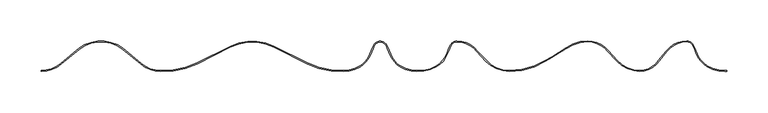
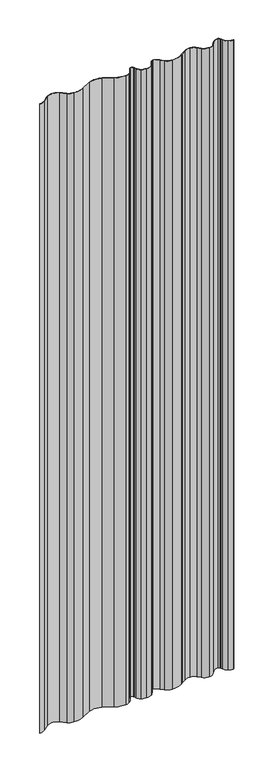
"""IFC4 building model written with IfcOpenShell, lengths in millimetres: plate geometry, Ritmica Vertical 834 : Ritmica Vertical 834."""

from ifc_helpers import new_model, si_unit, frame, origin, place, context, project, spatial, polyline, circle_curve, source, transform, mapped, element, save
from ifc_brep_helpers import plane_surface, cylinder_surface, revolved_surface, advanced_brep


def plate_c95ae0e2(model_context):
    return source(origin(), model_context, "Body", "AdvancedBrep", [
        advanced_brep(
        [(393.2391095, 6.8617877, 2859.2009216), (380.7879331, 21.6107843, 2859.2009216), (377.9067417, 28.8053371, 2859.2009216), (376.2463069, 32.2699104, 2859.2009216), (368.2557839, 37.3014761, 2859.2009216), (343.2838778, 25.2672166, 2859.2009216), (333.7374268, 13.2815417, 2859.2009216), (311.262648, 1.2965756, 2859.2009216), (283.7949346, 13.2922594, 2859.2009216), (272.6874551, 25.2790666, 2859.2009216), (247.7168686, 37.3160641, 2859.2009216), (220.9862336, 28.8937888, 2859.2009216), (203.6566719, 17.7575759, 2859.2009216), (196.2244931, 13.3604367, 2859.2009216), (152.05009, 1.1642518, 2859.2009216), (124.5823767, 13.1599356, 2859.2009216), (113.4748973, 25.1467426, 2859.2009216), (88.5011009, 37.1837396, 2859.2009216), (80.5132363, 32.1530508, 2859.2009216), (78.8524214, 28.6886595, 2859.2009216), (75.9704281, 21.4943903, 2859.2009216), (63.5176493, 6.7467924, 2859.2009216), (39.7563962, 1.0415158, 2859.2009216), (20.2159474, 6.5447366, 2859.2009216), (7.764771, 21.2937332, 2859.2009216), (4.8835795, 28.488286, 2859.2009216), (3.2231447, 31.9528592, 2859.2009216), (-12.7584529, 31.9537354, 2859.2009216), (-14.4192676, 28.4893443, 2859.2009216), (-17.3012479, 21.2951074, 2859.2009216), (-29.7540414, 6.5474761, 2859.2009216), (-49.2950931, 1.0463979, 2859.2009216), (-93.042882, 10.2143752, 2859.2009216), (-133.5802573, 30.5985105, 2859.2009216), (-187.4841307, 30.6014657, 2859.2009216), (-228.0237409, 10.2217753, 2859.2009216), (-271.7725347, 1.0585949, 2859.2009216), (-295.5393439, 9.6631088, 2859.2009216), (-317.9693483, 28.3519665, 2859.2009216), (-370.826806, 28.3548644, 2859.2009216), (-393.5611737, 9.6683726, 2859.2009216), (-417.3292902, 1.0664648, 2859.2009216), (-417.3289811, 0.0664648, 2859.2009216), (-392.9211304, 8.9000338, 2859.2009216), (-370.2071227, 27.5695651, 2859.2009216), (-318.5891177, 27.5667353, 2859.2009216), (-296.1794714, 8.8948401, 2859.2009216), (-271.7903563, 0.0586, 2859.2009216), (-227.5823609, 9.3244128, 2859.2009216), (-187.0349808, 29.7080093, 2859.2009216), (-134.0295052, 29.7051033, 2859.2009216), (-93.4843603, 9.3170611, 2859.2009216), (-49.2773822, 0.0464011, 2859.2009216), (-29.2323103, 5.6943661, 2859.2009216), (-16.3728739, 20.92346, 2859.2009216), (-13.5032594, 28.0868282, 2859.2009216), (-11.8567174, 31.5214472, 2859.2009216), (2.3213618, 31.5206699, 2859.2009216), (3.9675273, 28.0858704, 2859.2009216), (6.8363563, 20.9221876, 2859.2009216), (19.6941227, 5.6916838, 2859.2009216), (39.7239663, 0.0415312, 2859.2009216), (64.0338883, 5.8903245, 2859.2009216), (76.898788, 21.1227079, 2859.2009216), (79.7684295, 28.2861434, 2859.2009216), (81.4149718, 31.7207625, 2859.2009216), (88.5014083, 36.1837397, 2859.2009216), (112.7156551, 24.4948333, 2859.2009216), (123.8488779, 12.4802448, 2859.2009216), (152.0390386, 0.164254, 2859.2009216), (196.7450486, 12.5065068, 2859.2009216), (204.1817534, 16.9063237, 2859.2009216), (221.54196, 28.0622295, 2859.2009216), (247.7186194, 36.316064, 2859.2009216), (271.9283027, 24.6270604, 2859.2009216), (283.0614359, 12.6125686, 2859.2009216), (311.2625931, 0.2965756, 2859.2009216), (334.5448543, 12.6901877, 2859.2009216), (344.0660847, 24.6441979, 2859.2009216), (368.2557291, 36.3014761, 2859.2009216), (375.344524, 31.837721, 2859.2009216), (376.9906894, 28.4029215, 2859.2009216), (379.8601107, 21.2377596, 2859.2009216), (392.7213947, 6.0061978, 2859.2009216), (414.3303399, 0.0676844, 2859.2009216), (417.0000403, 0.0665665, 2859.2009216), (416.9997311, 1.0665665, 2859.2009216), (414.3303953, 1.0657412, 2859.2009216), (393.2391095, 6.8617877, 0.0), (414.3303947, 1.0676844, 0.0), (416.9997311, 1.0665665, 0.0), (417.0000403, 0.0665665, 0.0), (414.3307045, 0.0657413, 0.0), (392.7213947, 6.0061978, 0.0), (379.8601107, 21.2377596, 0.0), (376.9906894, 28.4029215, 0.0), (375.344524, 31.837721, 0.0), (368.2557291, 36.3014761, 0.0), (344.0660847, 24.6441979, 0.0), (334.5448543, 12.6901877, 0.0), (311.2625931, 0.2965756, 0.0), (283.0614359, 12.6125686, 0.0), (271.9283027, 24.6270604, 0.0), (247.7186194, 36.316064, 0.0), (221.54196, 28.0622295, 0.0), (204.1817534, 16.9063237, 0.0), (196.7450486, 12.5065068, 0.0), (152.0390386, 0.164254, 0.0), (123.8488779, 12.4802448, 0.0), (112.7156551, 24.4948333, 0.0), (88.5014083, 36.1837397, 0.0), (81.4149718, 31.7207625, 0.0), (79.7684295, 28.2861434, 0.0), (76.898788, 21.1227079, 0.0), (64.0338883, 5.8903245, 0.0), (39.7239663, 0.0415312, 0.0), (19.6941227, 5.6916838, 0.0), (6.8363563, 20.9221876, 0.0), (3.9675273, 28.0858704, 0.0), (2.3213618, 31.5206699, 0.0), (-11.8567174, 31.5214472, 0.0), (-13.5032594, 28.0868282, 0.0), (-16.3728739, 20.92346, 0.0), (-29.2323103, 5.6943661, 0.0), (-49.2773822, 0.0464011, 0.0), (-93.4843603, 9.3170611, 0.0), (-134.0295052, 29.7051033, 0.0), (-187.0349808, 29.7080093, 0.0), (-227.5823609, 9.3244128, 0.0), (-271.7903563, 0.0586, 0.0), (-296.1794714, 8.8948401, 0.0), (-318.5891177, 27.5667353, 0.0), (-370.2071227, 27.5695651, 0.0), (-392.9211304, 8.9000338, 0.0), (-417.3289811, 0.0664648, 0.0), (-417.3292902, 1.0664648, 0.0), (-393.5611737, 9.6683726, 0.0), (-370.826806, 28.3548644, 0.0), (-317.9693483, 28.3519665, 0.0), (-295.5393439, 9.6631088, 0.0), (-271.7725347, 1.0585949, 0.0), (-228.0237409, 10.2217753, 0.0), (-187.4841307, 30.6014657, 0.0), (-133.5802573, 30.5985105, 0.0), (-93.042882, 10.2143752, 0.0), (-49.2950931, 1.0463979, 0.0), (-29.7540414, 6.5474761, 0.0), (-17.3012479, 21.2951074, 0.0), (-14.4192676, 28.4893443, 0.0), (-12.7584529, 31.9537354, 0.0), (3.2231447, 31.9528592, 0.0), (4.8835795, 28.488286, 0.0), (7.764771, 21.2937332, 0.0), (20.2159474, 6.5447366, 0.0), (39.7563962, 1.0415158, 0.0), (63.5176493, 6.7467924, 0.0), (75.9704281, 21.4943903, 0.0), (78.8524214, 28.6886595, 0.0), (80.5132363, 32.1530508, 0.0), (88.5011009, 37.1837396, 0.0), (113.4748973, 25.1467426, 0.0), (124.5823767, 13.1599356, 0.0), (152.05009, 1.1642518, 0.0), (196.2244931, 13.3604367, 0.0), (203.6566719, 17.7575759, 0.0), (220.9862336, 28.8937888, 0.0), (247.7168686, 37.3160641, 0.0), (272.6874551, 25.2790666, 0.0), (283.7949346, 13.2922594, 0.0), (311.262648, 1.2965756, 0.0), (333.7374268, 13.2815417, 0.0), (343.2838778, 25.2672166, 0.0), (368.2557839, 37.3014761, 0.0), (376.2463069, 32.2699104, 0.0), (377.9067417, 28.8053371, 0.0), (380.7879331, 21.6107843, 0.0)],
        [
            (0, 1, circle_curve(frame((409.4563835, 33.182662, 2859.2009216), z_axis=(0.0, 0.0, -1.0), x_axis=(0.9999999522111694, 0.0003091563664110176, 0.0)), 30.9158276)),
            (1, 2),
            (2, 3),
            (3, 4, circle_curve(frame((368.2552981, 28.4401316, 2859.2009216), z_axis=(0.0, 0.0, 1.0), x_axis=(0.9999999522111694, 0.0003091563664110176, 0.0)), 8.8613445)),
            (4, 5, circle_curve(frame((368.2540338, 5.378777, 2859.2009216), z_axis=(0.0, 0.0, 1.0), x_axis=(0.9999999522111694, 0.0003091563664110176, 0.0)), 31.9226992)),
            (5, 6),
            (6, 7, circle_curve(frame((311.2641316, 28.3591638, 2859.2009216), z_axis=(0.0, 0.0, -1.0), x_axis=(0.9999999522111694, 0.0003091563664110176, 0.0)), 27.0625882)),
            (7, 8, circle_curve(frame((311.2647011, 38.7469, 2859.2009216), z_axis=(0.0, 0.0, -1.0), x_axis=(0.9999999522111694, 0.0003091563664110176, 0.0)), 37.4503244)),
            (8, 9),
            (9, 10, circle_curve(frame((247.7151185, 5.393365, 2859.2009216), z_axis=(0.0, 0.0, 1.0), x_axis=(0.9999999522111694, 0.0003091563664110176, 0.0)), 31.9226992)),
            (10, 11, circle_curve(frame((247.8850462, -9.8477086, 2859.2009216), z_axis=(0.0, 0.0, 1.0), x_axis=(0.9999999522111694, 0.0003091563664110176, 0.0)), 47.1640725)),
            (11, 12),
            (12, 13),
            (13, 14, circle_curve(frame((153.802572, 80.914401, 2859.2009216), z_axis=(0.0, 0.0, -1.0), x_axis=(0.9999999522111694, 0.0003091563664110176, 0.0)), 79.769402)),
            (14, 15, circle_curve(frame((152.0521432, 38.6145762, 2859.2009216), z_axis=(0.0, 0.0, -1.0), x_axis=(0.9999999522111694, 0.0003091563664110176, 0.0)), 37.4503244)),
            (15, 16),
            (16, 17, circle_curve(frame((88.5109087, 5.2783595, 2859.2009216), z_axis=(0.0, 0.0, 1.0), x_axis=(0.9999999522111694, 0.0003091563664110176, 0.0)), 31.9053816)),
            (17, 18, circle_curve(frame((88.5038249, 28.3223956, 2859.2009216), z_axis=(0.0, 0.0, 1.0), x_axis=(0.9999999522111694, 0.0003091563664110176, 0.0)), 8.8613444)),
            (18, 19),
            (19, 20),
            (20, 21, circle_curve(frame((47.5439746, 32.8661858, 2859.2009216), z_axis=(0.0, 0.0, -1.0), x_axis=(0.9999999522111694, 0.0003091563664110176, 0.0)), 30.6166783)),
            (21, 22, circle_curve(frame((42.427991, 42.2477955, 2859.2009216), z_axis=(0.0, 0.0, -1.0), x_axis=(0.9999999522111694, 0.0003091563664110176, 0.0)), 41.2927948)),
            (22, 23, circle_curve(frame((39.758449, 38.4918402, 2859.2009216), z_axis=(0.0, 0.0, -1.0), x_axis=(0.9999999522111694, 0.0003091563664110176, 0.0)), 37.4503244)),
            (23, 24, circle_curve(frame((36.1924841, 32.6623793, 2859.2009216), z_axis=(0.0, 0.0, -1.0), x_axis=(0.9999999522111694, 0.0003091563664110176, 0.0)), 30.6166783)),
            (24, 25),
            (25, 26),
            (26, 27, circle_curve(frame((-4.7678641, 28.1230805, 2859.2009216), z_axis=(0.0, 0.0, 1.0), x_axis=(0.9999999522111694, 0.0003091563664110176, 0.0)), 8.8613445)),
            (27, 28),
            (28, 29),
            (29, 30, circle_curve(frame((-45.7277143, 32.6668705, 2859.2009216), z_axis=(0.0, 0.0, -1.0), x_axis=(0.9999999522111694, 0.0003091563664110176, 0.0)), 30.6166783)),
            (30, 31, circle_curve(frame((-49.29304, 38.4967223, 2859.2009216), z_axis=(0.0, 0.0, -1.0), x_axis=(0.9999999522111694, 0.0003091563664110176, 0.0)), 37.4503244)),
            (31, 32, circle_curve(frame((-52.5908654, 94.281541, 2859.2009216), z_axis=(0.0, 0.0, -1.0), x_axis=(0.9999999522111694, 0.0003091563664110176, 0.0)), 93.293376)),
            (32, 33),
            (33, 34, circle_curve(frame((-160.5351329, -23.0059173, 2859.2009216), z_axis=(0.0, 0.0, 1.0), x_axis=(0.9999999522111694, 0.0003091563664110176, 0.0)), 60.0)),
            (34, 35),
            (35, 36, circle_curve(frame((-268.4665395, 94.293376, 2859.2009216), z_axis=(0.0, 0.0, -1.0), x_axis=(0.9999999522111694, 0.0003091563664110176, 0.0)), 93.293376)),
            (36, 37, circle_curve(frame((-271.770499, 38.1900152, 2859.2009216), z_axis=(0.0, 0.0, -1.0), x_axis=(0.9999999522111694, 0.0003091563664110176, 0.0)), 37.1314203)),
            (37, 38),
            (38, 39, circle_curve(frame((-344.4000154, -7.0007595, 2859.2009216), z_axis=(0.0, 0.0, 1.0), x_axis=(0.9999999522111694, 0.0003091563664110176, 0.0)), 44.1406321)),
            (39, 40),
            (40, 41, circle_curve(frame((-417.3268906, 38.1978851, 2859.2009216), z_axis=(0.0, 0.0, -1.0), x_axis=(0.9999999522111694, 0.0003091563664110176, 0.0)), 37.1314203)),
            (41, 42),
            (42, 43, circle_curve(frame((-417.3268906, 38.1978851, 2859.2009216), z_axis=(0.0, 0.0, 1.0), x_axis=(0.9999999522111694, 0.0003091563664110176, 0.0)), 38.1314203)),
            (43, 44),
            (44, 45, circle_curve(frame((-344.4000154, -7.0007595, 2859.2009216), z_axis=(0.0, 0.0, -1.0), x_axis=(0.9999999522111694, 0.0003091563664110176, 0.0)), 43.1406321)),
            (45, 46),
            (46, 47, circle_curve(frame((-271.770499, 38.1900152, 2859.2009216), z_axis=(0.0, 0.0, 1.0), x_axis=(0.9999999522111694, 0.0003091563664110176, 0.0)), 38.1314203)),
            (47, 48, circle_curve(frame((-268.4665395, 94.293376, 2859.2009216), z_axis=(0.0, 0.0, 1.0), x_axis=(0.9999999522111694, 0.0003091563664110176, 0.0)), 94.293376)),
            (48, 49),
            (49, 50, circle_curve(frame((-160.5351329, -23.0059173, 2859.2009216), z_axis=(0.0, 0.0, -1.0), x_axis=(0.9999999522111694, 0.0003091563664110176, 0.0)), 59.0)),
            (50, 51),
            (51, 52, circle_curve(frame((-52.5908654, 94.281541, 2859.2009216), z_axis=(0.0, 0.0, 1.0), x_axis=(0.9999999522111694, 0.0003091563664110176, 0.0)), 94.293376)),
            (52, 53, circle_curve(frame((-49.29304, 38.4967223, 2859.2009216), z_axis=(0.0, 0.0, 1.0), x_axis=(0.9999999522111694, 0.0003091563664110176, 0.0)), 38.4503244)),
            (53, 54, circle_curve(frame((-45.7277143, 32.6668705, 2859.2009216), z_axis=(0.0, 0.0, 1.0), x_axis=(0.9999999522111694, 0.0003091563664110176, 0.0)), 31.6166783)),
            (54, 55),
            (55, 56),
            (56, 57, circle_curve(frame((-4.7678641, 28.1230805, 2859.2009216), z_axis=(0.0, 0.0, -1.0), x_axis=(0.9999999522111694, 0.0003091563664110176, 0.0)), 7.8613445)),
            (57, 58),
            (58, 59),
            (59, 60, circle_curve(frame((36.1924841, 32.6623793, 2859.2009216), z_axis=(0.0, 0.0, 1.0), x_axis=(0.9999999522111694, 0.0003091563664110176, 0.0)), 31.6166783)),
            (60, 61, circle_curve(frame((39.758449, 38.4918402, 2859.2009216), z_axis=(0.0, 0.0, 1.0), x_axis=(0.9999999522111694, 0.0003091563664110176, 0.0)), 38.4503244)),
            (61, 62, circle_curve(frame((42.427991, 42.2477955, 2859.2009216), z_axis=(0.0, 0.0, 1.0), x_axis=(0.9999999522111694, 0.0003091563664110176, 0.0)), 42.2927948)),
            (62, 63, circle_curve(frame((47.5439746, 32.8661858, 2859.2009216), z_axis=(0.0, 0.0, 1.0), x_axis=(0.9999999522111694, 0.0003091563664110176, 0.0)), 31.6166782)),
            (63, 64),
            (64, 65),
            (65, 66, circle_curve(frame((88.5038249, 28.3223956, 2859.2009216), z_axis=(0.0, 0.0, -1.0), x_axis=(0.9999999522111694, 0.0003091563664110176, 0.0)), 7.8613444)),
            (66, 67, circle_curve(frame((88.5109087, 5.2783595, 2859.2009216), z_axis=(0.0, 0.0, -1.0), x_axis=(0.9999999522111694, 0.0003091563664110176, 0.0)), 30.9053816)),
            (67, 68),
            (68, 69, circle_curve(frame((152.0521432, 38.6145762, 2859.2009216), z_axis=(0.0, 0.0, 1.0), x_axis=(0.9999999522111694, 0.0003091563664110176, 0.0)), 38.4503244)),
            (69, 70, circle_curve(frame((153.802572, 80.914401, 2859.2009216), z_axis=(0.0, 0.0, 1.0), x_axis=(0.9999999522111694, 0.0003091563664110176, 0.0)), 80.769402)),
            (70, 71),
            (71, 72),
            (72, 73, circle_curve(frame((247.8850462, -9.8477086, 2859.2009216), z_axis=(0.0, 0.0, -1.0), x_axis=(0.9999999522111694, 0.0003091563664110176, 0.0)), 46.1640725)),
            (73, 74, circle_curve(frame((247.7151185, 5.393365, 2859.2009216), z_axis=(0.0, 0.0, -1.0), x_axis=(0.9999999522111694, 0.0003091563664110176, 0.0)), 30.9226992)),
            (74, 75),
            (75, 76, circle_curve(frame((311.2647011, 38.7469, 2859.2009216), z_axis=(0.0, 0.0, 1.0), x_axis=(0.9999999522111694, 0.0003091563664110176, 0.0)), 38.4503244)),
            (76, 77, circle_curve(frame((311.2641316, 28.3591638, 2859.2009216), z_axis=(0.0, 0.0, 1.0), x_axis=(0.9999999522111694, 0.0003091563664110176, 0.0)), 28.0625882)),
            (77, 78),
            (78, 79, circle_curve(frame((368.2540338, 5.378777, 2859.2009216), z_axis=(0.0, 0.0, -1.0), x_axis=(0.9999999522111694, 0.0003091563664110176, 0.0)), 30.9226992)),
            (79, 80, circle_curve(frame((368.2552981, 28.4401316, 2859.2009216), z_axis=(0.0, 0.0, -1.0), x_axis=(0.9999999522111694, 0.0003091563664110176, 0.0)), 7.8613445)),
            (80, 81),
            (81, 82),
            (82, 83, circle_curve(frame((409.4563835, 33.182662, 2859.2009216), z_axis=(0.0, 0.0, 1.0), x_axis=(0.9999999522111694, 0.0003091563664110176, 0.0)), 31.9158276)),
            (83, 84, circle_curve(frame((414.3326585, 42.3604792, 2859.2009216), z_axis=(0.0, 0.0, 1.0), x_axis=(0.9999999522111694, 0.0003091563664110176, 0.0)), 42.2927949)),
            (84, 85),
            (85, 86),
            (86, 87),
            (87, 0, circle_curve(frame((414.3326585, 42.3604792, 2859.2009216), z_axis=(0.0, 0.0, -1.0), x_axis=(0.9999999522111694, 0.0003091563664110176, 0.0)), 41.2927949)),
            (88, 89, circle_curve(frame((414.3326585, 42.3604792, 0.0), z_axis=(0.0, 0.0, 1.0), x_axis=(0.9999999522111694, 0.0003091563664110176, 0.0)), 41.2927949)),
            (89, 90),
            (90, 91),
            (91, 92),
            (92, 93, circle_curve(frame((414.3326585, 42.3604792, 0.0), z_axis=(0.0, 0.0, -1.0), x_axis=(0.9999999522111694, 0.0003091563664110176, 0.0)), 42.2927949)),
            (93, 94, circle_curve(frame((409.4563835, 33.182662, 0.0), z_axis=(0.0, 0.0, -1.0), x_axis=(0.9999999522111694, 0.0003091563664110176, 0.0)), 31.9158276)),
            (94, 95),
            (95, 96),
            (96, 97, circle_curve(frame((368.2552981, 28.4401316, 0.0), z_axis=(0.0, 0.0, 1.0), x_axis=(0.9999999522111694, 0.0003091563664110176, 0.0)), 7.8613445)),
            (97, 98, circle_curve(frame((368.2540338, 5.378777, 0.0), z_axis=(0.0, 0.0, 1.0), x_axis=(0.9999999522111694, 0.0003091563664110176, 0.0)), 30.9226992)),
            (98, 99),
            (99, 100, circle_curve(frame((311.2641316, 28.3591638, 0.0), z_axis=(0.0, 0.0, -1.0), x_axis=(0.9999999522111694, 0.0003091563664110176, 0.0)), 28.0625882)),
            (100, 101, circle_curve(frame((311.2647011, 38.7469, 0.0), z_axis=(0.0, 0.0, -1.0), x_axis=(0.9999999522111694, 0.0003091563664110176, 0.0)), 38.4503244)),
            (101, 102),
            (102, 103, circle_curve(frame((247.7151185, 5.393365, 0.0), z_axis=(0.0, 0.0, 1.0), x_axis=(0.9999999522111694, 0.0003091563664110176, 0.0)), 30.9226992)),
            (103, 104, circle_curve(frame((247.8850462, -9.8477086, 0.0), z_axis=(0.0, 0.0, 1.0), x_axis=(0.9999999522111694, 0.0003091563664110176, 0.0)), 46.1640725)),
            (104, 105),
            (105, 106),
            (106, 107, circle_curve(frame((153.802572, 80.914401, 0.0), z_axis=(0.0, 0.0, -1.0), x_axis=(0.9999999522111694, 0.0003091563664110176, 0.0)), 80.769402)),
            (107, 108, circle_curve(frame((152.0521432, 38.6145762, 0.0), z_axis=(0.0, 0.0, -1.0), x_axis=(0.9999999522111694, 0.0003091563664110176, 0.0)), 38.4503244)),
            (108, 109),
            (109, 110, circle_curve(frame((88.5109087, 5.2783595, 0.0), z_axis=(0.0, 0.0, 1.0), x_axis=(0.9999999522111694, 0.0003091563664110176, 0.0)), 30.9053816)),
            (110, 111, circle_curve(frame((88.5038249, 28.3223956, 0.0), z_axis=(0.0, 0.0, 1.0), x_axis=(0.9999999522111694, 0.0003091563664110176, 0.0)), 7.8613444)),
            (111, 112),
            (112, 113),
            (113, 114, circle_curve(frame((47.5439746, 32.8661858, 0.0), z_axis=(0.0, 0.0, -1.0), x_axis=(0.9999999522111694, 0.0003091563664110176, 0.0)), 31.6166782)),
            (114, 115, circle_curve(frame((42.427991, 42.2477955, 0.0), z_axis=(0.0, 0.0, -1.0), x_axis=(0.9999999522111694, 0.0003091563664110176, 0.0)), 42.2927948)),
            (115, 116, circle_curve(frame((39.758449, 38.4918402, 0.0), z_axis=(0.0, 0.0, -1.0), x_axis=(0.9999999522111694, 0.0003091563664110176, 0.0)), 38.4503244)),
            (116, 117, circle_curve(frame((36.1924841, 32.6623793, 0.0), z_axis=(0.0, 0.0, -1.0), x_axis=(0.9999999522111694, 0.0003091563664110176, 0.0)), 31.6166783)),
            (117, 118),
            (118, 119),
            (119, 120, circle_curve(frame((-4.7678641, 28.1230805, 0.0), z_axis=(0.0, 0.0, 1.0), x_axis=(0.9999999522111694, 0.0003091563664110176, 0.0)), 7.8613445)),
            (120, 121),
            (121, 122),
            (122, 123, circle_curve(frame((-45.7277143, 32.6668705, 0.0), z_axis=(0.0, 0.0, -1.0), x_axis=(0.9999999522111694, 0.0003091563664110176, 0.0)), 31.6166783)),
            (123, 124, circle_curve(frame((-49.29304, 38.4967223, 0.0), z_axis=(0.0, 0.0, -1.0), x_axis=(0.9999999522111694, 0.0003091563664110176, 0.0)), 38.4503244)),
            (124, 125, circle_curve(frame((-52.5908654, 94.281541, 0.0), z_axis=(0.0, 0.0, -1.0), x_axis=(0.9999999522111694, 0.0003091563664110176, 0.0)), 94.293376)),
            (125, 126),
            (126, 127, circle_curve(frame((-160.5351329, -23.0059173, 0.0), z_axis=(0.0, 0.0, 1.0), x_axis=(0.9999999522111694, 0.0003091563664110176, 0.0)), 59.0)),
            (127, 128),
            (128, 129, circle_curve(frame((-268.4665395, 94.293376, 0.0), z_axis=(0.0, 0.0, -1.0), x_axis=(0.9999999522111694, 0.0003091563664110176, 0.0)), 94.293376)),
            (129, 130, circle_curve(frame((-271.770499, 38.1900152, 0.0), z_axis=(0.0, 0.0, -1.0), x_axis=(0.9999999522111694, 0.0003091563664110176, 0.0)), 38.1314203)),
            (130, 131),
            (131, 132, circle_curve(frame((-344.4000154, -7.0007595, 0.0), z_axis=(0.0, 0.0, 1.0), x_axis=(0.9999999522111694, 0.0003091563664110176, 0.0)), 43.1406321)),
            (132, 133),
            (133, 134, circle_curve(frame((-417.3268906, 38.1978851, 0.0), z_axis=(0.0, 0.0, -1.0), x_axis=(0.9999999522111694, 0.0003091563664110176, 0.0)), 38.1314203)),
            (134, 135),
            (135, 136, circle_curve(frame((-417.3268906, 38.1978851, 0.0), z_axis=(0.0, 0.0, 1.0), x_axis=(0.9999999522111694, 0.0003091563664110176, 0.0)), 37.1314203)),
            (136, 137),
            (137, 138, circle_curve(frame((-344.4000154, -7.0007595, 0.0), z_axis=(0.0, 0.0, -1.0), x_axis=(0.9999999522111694, 0.0003091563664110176, 0.0)), 44.1406321)),
            (138, 139),
            (139, 140, circle_curve(frame((-271.770499, 38.1900152, 0.0), z_axis=(0.0, 0.0, 1.0), x_axis=(0.9999999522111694, 0.0003091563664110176, 0.0)), 37.1314203)),
            (140, 141, circle_curve(frame((-268.4665395, 94.293376, 0.0), z_axis=(0.0, 0.0, 1.0), x_axis=(0.9999999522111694, 0.0003091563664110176, 0.0)), 93.293376)),
            (141, 142),
            (142, 143, circle_curve(frame((-160.5351329, -23.0059173, 0.0), z_axis=(0.0, 0.0, -1.0), x_axis=(0.9999999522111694, 0.0003091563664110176, 0.0)), 60.0)),
            (143, 144),
            (144, 145, circle_curve(frame((-52.5908654, 94.281541, 0.0), z_axis=(0.0, 0.0, 1.0), x_axis=(0.9999999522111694, 0.0003091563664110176, 0.0)), 93.293376)),
            (145, 146, circle_curve(frame((-49.29304, 38.4967223, 0.0), z_axis=(0.0, 0.0, 1.0), x_axis=(0.9999999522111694, 0.0003091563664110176, 0.0)), 37.4503244)),
            (146, 147, circle_curve(frame((-45.7277143, 32.6668705, 0.0), z_axis=(0.0, 0.0, 1.0), x_axis=(0.9999999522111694, 0.0003091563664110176, 0.0)), 30.6166783)),
            (147, 148),
            (148, 149),
            (149, 150, circle_curve(frame((-4.7678641, 28.1230805, 0.0), z_axis=(0.0, 0.0, -1.0), x_axis=(0.9999999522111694, 0.0003091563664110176, 0.0)), 8.8613445)),
            (150, 151),
            (151, 152),
            (152, 153, circle_curve(frame((36.1924841, 32.6623793, 0.0), z_axis=(0.0, 0.0, 1.0), x_axis=(0.9999999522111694, 0.0003091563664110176, 0.0)), 30.6166783)),
            (153, 154, circle_curve(frame((39.758449, 38.4918402, 0.0), z_axis=(0.0, 0.0, 1.0), x_axis=(0.9999999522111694, 0.0003091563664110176, 0.0)), 37.4503244)),
            (154, 155, circle_curve(frame((42.427991, 42.2477955, 0.0), z_axis=(0.0, 0.0, 1.0), x_axis=(0.9999999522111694, 0.0003091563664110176, 0.0)), 41.2927948)),
            (155, 156, circle_curve(frame((47.5439746, 32.8661858, 0.0), z_axis=(0.0, 0.0, 1.0), x_axis=(0.9999999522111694, 0.0003091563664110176, 0.0)), 30.6166783)),
            (156, 157),
            (157, 158),
            (158, 159, circle_curve(frame((88.5038249, 28.3223956, 0.0), z_axis=(0.0, 0.0, -1.0), x_axis=(0.9999999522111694, 0.0003091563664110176, 0.0)), 8.8613444)),
            (159, 160, circle_curve(frame((88.5109087, 5.2783595, 0.0), z_axis=(0.0, 0.0, -1.0), x_axis=(0.9999999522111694, 0.0003091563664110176, 0.0)), 31.9053816)),
            (160, 161),
            (161, 162, circle_curve(frame((152.0521432, 38.6145762, 0.0), z_axis=(0.0, 0.0, 1.0), x_axis=(0.9999999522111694, 0.0003091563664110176, 0.0)), 37.4503244)),
            (162, 163, circle_curve(frame((153.802572, 80.914401, 0.0), z_axis=(0.0, 0.0, 1.0), x_axis=(0.9999999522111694, 0.0003091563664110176, 0.0)), 79.769402)),
            (163, 164),
            (164, 165),
            (165, 166, circle_curve(frame((247.8850462, -9.8477086, 0.0), z_axis=(0.0, 0.0, -1.0), x_axis=(0.9999999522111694, 0.0003091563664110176, 0.0)), 47.1640725)),
            (166, 167, circle_curve(frame((247.7151185, 5.393365, 0.0), z_axis=(0.0, 0.0, -1.0), x_axis=(0.9999999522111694, 0.0003091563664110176, 0.0)), 31.9226992)),
            (167, 168),
            (168, 169, circle_curve(frame((311.2647011, 38.7469, 0.0), z_axis=(0.0, 0.0, 1.0), x_axis=(0.9999999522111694, 0.0003091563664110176, 0.0)), 37.4503244)),
            (169, 170, circle_curve(frame((311.2641316, 28.3591638, 0.0), z_axis=(0.0, 0.0, 1.0), x_axis=(0.9999999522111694, 0.0003091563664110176, 0.0)), 27.0625882)),
            (170, 171),
            (171, 172, circle_curve(frame((368.2540338, 5.378777, 0.0), z_axis=(0.0, 0.0, -1.0), x_axis=(0.9999999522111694, 0.0003091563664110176, 0.0)), 31.9226992)),
            (172, 173, circle_curve(frame((368.2552981, 28.4401316, 0.0), z_axis=(0.0, 0.0, -1.0), x_axis=(0.9999999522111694, 0.0003091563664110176, 0.0)), 8.8613445)),
            (173, 174),
            (174, 175),
            (175, 88, circle_curve(frame((409.4563835, 33.182662, 0.0), z_axis=(0.0, 0.0, 1.0), x_axis=(0.9999999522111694, 0.0003091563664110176, 0.0)), 30.9158276)),
            (87, 89),
            (88, 0),
            (175, 1),
            (174, 2),
            (173, 3),
            (172, 4),
            (171, 5),
            (170, 6),
            (169, 7),
            (168, 8),
            (167, 9),
            (166, 10),
            (165, 11),
            (164, 12),
            (163, 13),
            (162, 14),
            (161, 15),
            (160, 16),
            (159, 17),
            (158, 18),
            (157, 19),
            (156, 20),
            (155, 21),
            (154, 22),
            (153, 23),
            (152, 24),
            (151, 25),
            (150, 26),
            (149, 27),
            (148, 28),
            (147, 29),
            (146, 30),
            (145, 31),
            (144, 32),
            (143, 33),
            (142, 34),
            (141, 35),
            (140, 36),
            (139, 37),
            (138, 38),
            (137, 39),
            (136, 40),
            (135, 41),
            (134, 42),
            (133, 43),
            (132, 44),
            (131, 45),
            (130, 46),
            (129, 47),
            (128, 48),
            (127, 49),
            (126, 50),
            (125, 51),
            (124, 52),
            (123, 53),
            (122, 54),
            (121, 55),
            (120, 56),
            (119, 57),
            (118, 58),
            (117, 59),
            (116, 60),
            (115, 61),
            (114, 62),
            (113, 63),
            (112, 64),
            (111, 65),
            (110, 66),
            (109, 67),
            (108, 68),
            (107, 69),
            (106, 70),
            (105, 71),
            (104, 72),
            (103, 73),
            (102, 74),
            (101, 75),
            (100, 76),
            (99, 77),
            (98, 78),
            (97, 79),
            (96, 80),
            (95, 81),
            (94, 82),
            (93, 83),
            (92, 84),
            (91, 85),
            (90, 86),
        ],
        [
            plane_surface(frame((440.3722096, 33.1922198, 2859.2009216), z_axis=(0.0, 0.0, 1.0), x_axis=(0.00030915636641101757, -0.9999999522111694, 0.0))),
            plane_surface(frame((440.3722096, 33.1922198, 0.0), z_axis=(0.0, 0.0, -1.0), x_axis=(-0.00030915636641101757, 0.9999999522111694, 0.0))),
            revolved_surface(polyline([(455.6254514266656, 42.37324513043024, 0.0), (455.6254514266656, 42.37324513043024, 2859.2009216)]), (414.3326585, 42.3604792, 0.0), (0.0, 0.0, -1.0)),
            revolved_surface(polyline([(440.3722096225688, 33.19221982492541, 0.0), (440.3722096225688, 33.19221982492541, 2859.2009216)]), (409.4563835, 33.182662, 0.0), (0.0, 0.0, -1.0)),
            plane_surface(frame((380.7879331, 21.6107843, 2859.2009216), z_axis=(0.9283266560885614, 0.3717655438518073, 0.0), x_axis=(0.0, 0.0, -1.0))),
            plane_surface(frame((377.9067417, 28.8053371, 2859.2009216), z_axis=(0.9017828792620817, 0.432189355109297, 0.0), x_axis=(0.0, 0.0, -1.0))),
            cylinder_surface(frame((368.2552981, 28.4401316, 0.0), z_axis=(0.0, 0.0, 1.0), x_axis=(0.9999999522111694, 0.0003091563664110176, 0.0)), 8.8613445),
            cylinder_surface(frame((368.2540338, 5.378777, 0.0), z_axis=(0.0, 0.0, 1.0), x_axis=(0.9999999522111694, 0.0003091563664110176, 0.0)), 31.9226992),
            plane_surface(frame((343.2838778, 25.2672166, 2859.2009216), z_axis=(-0.7822069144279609, 0.6230187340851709, 0.0), x_axis=(0.0, 0.0, -1.0))),
            revolved_surface(polyline([(338.32671850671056, 28.367530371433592, 0.0), (338.32671850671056, 28.367530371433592, 2859.2009216)]), (311.2641316, 28.3591638, 0.0), (0.0, 0.0, -1.0)),
            revolved_surface(polyline([(348.7150237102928, 38.758478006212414, 0.0), (348.7150237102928, 38.758478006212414, 2859.2009216)]), (311.2647011, 38.7469, 0.0), (0.0, 0.0, -1.0)),
            plane_surface(frame((283.7949346, 13.2922594, 2859.2009216), z_axis=(0.7334987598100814, 0.6796907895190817, 0.0), x_axis=(0.0, 0.0, -1.0))),
            cylinder_surface(frame((247.7151185, 5.393365, 0.0), z_axis=(0.0, 0.0, 1.0), x_axis=(0.9999999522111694, 0.0003091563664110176, 0.0)), 31.9226992),
            cylinder_surface(frame((247.8850462, -9.8477086, 0.0), z_axis=(0.0, 0.0, 1.0), x_axis=(0.9999999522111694, 0.0003091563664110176, 0.0)), 47.1640725),
            plane_surface(frame((220.9862336, 28.8937888, 2859.2009216), z_axis=(-0.5406126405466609, 0.8412716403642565, 0.0), x_axis=(0.0, 0.0, -1.0))),
            plane_surface(frame((203.6566719, 17.7575759, 2859.2009216), z_axis=(-0.5091924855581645, 0.8606526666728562, 0.0), x_axis=(0.0, 0.0, -1.0))),
            revolved_surface(polyline([(233.57197018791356, 80.9390622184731, 0.0), (233.57197018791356, 80.9390622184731, 2859.2009216)]), (153.802572, 80.914401, 0.0), (0.0, 0.0, -1.0)),
            revolved_surface(polyline([(189.5024658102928, 38.62615420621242, 0.0), (189.5024658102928, 38.62615420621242, 2859.2009216)]), (152.0521432, 38.6145762, 0.0), (0.0, 0.0, -1.0)),
            plane_surface(frame((124.5823767, 13.1599356, 2859.2009216), z_axis=(0.73349875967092, 0.6796907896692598, 0.0), x_axis=(0.0, 0.0, -1.0))),
            cylinder_surface(frame((88.5109087, 5.2783595, 0.0), z_axis=(0.0, 0.0, 1.0), x_axis=(0.9999999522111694, 0.0003091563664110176, 0.0)), 31.9053816),
            cylinder_surface(frame((88.5038249, 28.3223956, 0.0), z_axis=(0.0, 0.0, 1.0), x_axis=(0.9999999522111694, 0.0003091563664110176, 0.0)), 8.8613444),
            plane_surface(frame((80.5132363, 32.1530508, 2859.2009216), z_axis=(-0.9017354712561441, 0.43228826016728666, 0.0), x_axis=(0.0, 0.0, -1.0))),
            plane_surface(frame((78.8524214, 28.6886595, 2859.2009216), z_axis=(-0.928285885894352, 0.37186733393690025, 0.0), x_axis=(0.0, 0.0, -1.0))),
            revolved_surface(polyline([(78.16065143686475, 32.8756511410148, 0.0), (78.16065143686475, 32.8756511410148, 2859.2009216)]), (47.5439746, 32.8661858, 0.0), (0.0, 0.0, -1.0)),
            revolved_surface(polyline([(83.72078382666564, 42.26056143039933, 0.0), (83.72078382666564, 42.26056143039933, 2859.2009216)]), (42.427991, 42.2477955, 0.0), (0.0, 0.0, -1.0)),
            revolved_surface(polyline([(77.20877161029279, 38.503418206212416, 0.0), (77.20877161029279, 38.503418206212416, 2859.2009216)]), (39.758449, 38.4918402, 0.0), (0.0, 0.0, -1.0)),
            revolved_surface(polyline([(66.80916093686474, 32.6718446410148, 0.0), (66.80916093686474, 32.6718446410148, 2859.2009216)]), (36.1924841, 32.6623793, 0.0), (0.0, 0.0, -1.0)),
            plane_surface(frame((7.764771, 21.2937332, 2859.2009216), z_axis=(0.928326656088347, 0.3717655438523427, 0.0), x_axis=(0.0, 0.0, -1.0))),
            plane_surface(frame((4.8835795, 28.488286, 2859.2009216), z_axis=(0.9017828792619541, 0.4321893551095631, 0.0), x_axis=(0.0, 0.0, -1.0))),
            cylinder_surface(frame((-4.7678641, 28.1230805, 0.0), z_axis=(0.0, 0.0, 1.0), x_axis=(0.9999999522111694, 0.0003091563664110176, 0.0)), 8.8613445),
            plane_surface(frame((-12.7584529, 31.9537354, 2859.2009216), z_axis=(-0.9017354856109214, 0.4322882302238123, 0.0), x_axis=(0.0, 0.0, -1.0))),
            plane_surface(frame((-14.4192676, 28.4893443, 2859.2009216), z_axis=(-0.928285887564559, 0.3718673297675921, 0.0), x_axis=(0.0, 0.0, -1.0))),
            revolved_surface(polyline([(-15.111037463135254, 32.676335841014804, 0.0), (-15.111037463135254, 32.676335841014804, 2859.2009216)]), (-45.7277143, 32.6668705, 0.0), (0.0, 0.0, -1.0)),
            revolved_surface(polyline([(-11.842717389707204, 38.50830030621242, 0.0), (-11.842717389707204, 38.50830030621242, 2859.2009216)]), (-49.29304, 38.4967223, 0.0), (0.0, 0.0, -1.0)),
            revolved_surface(polyline([(40.702506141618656, 94.31038324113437, 0.0), (40.702506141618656, 94.31038324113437, 2859.2009216)]), (-52.5908654, 94.281541, 0.0), (0.0, 0.0, -1.0)),
            plane_surface(frame((-93.042882, 10.2143752, 2859.2009216), z_axis=(0.4492479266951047, 0.8934071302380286, 0.0), x_axis=(0.0, 0.0, -1.0))),
            cylinder_surface(frame((-160.5351329, -23.0059173, 0.0), z_axis=(0.0, 0.0, 1.0), x_axis=(0.9999999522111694, 0.0003091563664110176, 0.0)), 60.0),
            plane_surface(frame((-187.4841307, 30.6014657, 2859.2009216), z_axis=(-0.449149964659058, 0.893456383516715, 0.0), x_axis=(0.0, 0.0, -1.0))),
            revolved_surface(polyline([(-175.17316795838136, 94.32221824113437, 0.0), (-175.17316795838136, 94.32221824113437, 2859.2009216)]), (-268.4665395, 94.293376, 0.0), (0.0, 0.0, -1.0)),
            revolved_surface(polyline([(-234.6390804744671, 38.20149461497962, 0.0), (-234.6390804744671, 38.20149461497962, 2859.2009216)]), (-271.770499, 38.1900152, 0.0), (0.0, 0.0, -1.0)),
            plane_surface(frame((-295.5393439, 9.6631088, 2859.2009216), z_axis=(0.6401275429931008, 0.7682686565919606, 0.0), x_axis=(0.0, 0.0, -1.0))),
            cylinder_surface(frame((-344.4000154, -7.0007595, 0.0), z_axis=(0.0, 0.0, 1.0), x_axis=(0.9999999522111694, 0.0003091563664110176, 0.0)), 44.1406321),
            plane_surface(frame((-370.826806, 28.3548644, 2859.2009216), z_axis=(-0.634979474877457, 0.7725290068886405, 0.0), x_axis=(0.0, 0.0, -1.0))),
            revolved_surface(polyline([(-380.19547207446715, 38.209364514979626, 0.0), (-380.19547207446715, 38.209364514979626, 2859.2009216)]), (-417.3268906, 38.1978851, 0.0), (0.0, 0.0, -1.0)),
            plane_surface(frame((-417.3292902, 1.0664648, 2859.2009216), z_axis=(-0.9999999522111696, -0.00030915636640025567, 0.0), x_axis=(0.0, 0.0, -1.0))),
            cylinder_surface(frame((-417.3268906, 38.1978851, 0.0), z_axis=(0.0, 0.0, 1.0), x_axis=(0.9999999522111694, 0.0003091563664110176, 0.0)), 38.1314203),
            plane_surface(frame((-392.9211304, 8.9000338, 2859.2009216), z_axis=(0.634974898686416, -0.7725327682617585, 0.0), x_axis=(0.0, 0.0, -1.0))),
            revolved_surface(polyline([(-301.25938536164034, -6.987422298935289, 0.0), (-301.25938536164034, -6.987422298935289, 2859.2009216)]), (-344.4000154, -7.0007595, 0.0), (0.0, 0.0, -1.0)),
            plane_surface(frame((-318.5891177, 27.5667353, 2859.2009216), z_axis=(-0.6401275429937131, -0.7682686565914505, 0.0), x_axis=(0.0, 0.0, -1.0))),
            cylinder_surface(frame((-271.770499, 38.1900152, 0.0), z_axis=(0.0, 0.0, 1.0), x_axis=(0.9999999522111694, 0.0003091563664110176, 0.0)), 38.1314203),
            cylinder_surface(frame((-268.4665395, 94.293376, 0.0), z_axis=(0.0, 0.0, 1.0), x_axis=(0.9999999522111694, 0.0003091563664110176, 0.0)), 94.293376),
            plane_surface(frame((-227.5823609, 9.3244128, 2859.2009216), z_axis=(0.4491499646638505, -0.8934563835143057, 0.0), x_axis=(0.0, 0.0, -1.0))),
            revolved_surface(polyline([(-101.53513571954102, -22.98767707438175, 0.0), (-101.53513571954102, -22.98767707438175, 2859.2009216)]), (-160.5351329, -23.0059173, 0.0), (0.0, 0.0, -1.0)),
            plane_surface(frame((-134.0295052, 29.7051033, 2859.2009216), z_axis=(-0.44924792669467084, -0.8934071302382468, 0.0), x_axis=(0.0, 0.0, -1.0))),
            cylinder_surface(frame((-52.5908654, 94.281541, 0.0), z_axis=(0.0, 0.0, 1.0), x_axis=(0.9999999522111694, 0.0003091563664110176, 0.0)), 94.293376),
            cylinder_surface(frame((-49.29304, 38.4967223, 0.0), z_axis=(0.0, 0.0, 1.0), x_axis=(0.9999999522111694, 0.0003091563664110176, 0.0)), 38.4503244),
            cylinder_surface(frame((-45.7277143, 32.6668705, 0.0), z_axis=(0.0, 0.0, 1.0), x_axis=(0.9999999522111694, 0.0003091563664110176, 0.0)), 31.6166783),
            plane_surface(frame((-16.3728739, 20.92346, 2859.2009216), z_axis=(0.9282858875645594, -0.3718673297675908, 0.0), x_axis=(0.0, 0.0, -1.0))),
            plane_surface(frame((-13.5032594, 28.0868282, 2859.2009216), z_axis=(0.9017354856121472, -0.4322882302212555, 0.0), x_axis=(0.0, 0.0, -1.0))),
            revolved_surface(polyline([(3.0934800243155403, 28.125510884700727, 0.0), (3.0934800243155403, 28.125510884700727, 2859.2009216)]), (-4.7678641, 28.1230805, 0.0), (0.0, 0.0, -1.0)),
            plane_surface(frame((2.3213618, 31.5206699, 2859.2009216), z_axis=(-0.9017828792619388, -0.43218935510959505, 0.0), x_axis=(0.0, 0.0, -1.0))),
            plane_surface(frame((3.9675273, 28.0858704, 2859.2009216), z_axis=(-0.9283266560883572, -0.371765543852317, 0.0), x_axis=(0.0, 0.0, -1.0))),
            cylinder_surface(frame((36.1924841, 32.6623793, 0.0), z_axis=(0.0, 0.0, 1.0), x_axis=(0.9999999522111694, 0.0003091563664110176, 0.0)), 31.6166783),
            cylinder_surface(frame((39.758449, 38.4918402, 0.0), z_axis=(0.0, 0.0, 1.0), x_axis=(0.9999999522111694, 0.0003091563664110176, 0.0)), 38.4503244),
            cylinder_surface(frame((42.427991, 42.2477955, 0.0), z_axis=(0.0, 0.0, 1.0), x_axis=(0.9999999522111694, 0.0003091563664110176, 0.0)), 42.2927948),
            cylinder_surface(frame((47.5439746, 32.8661858, 0.0), z_axis=(0.0, 0.0, 1.0), x_axis=(0.9999999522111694, 0.0003091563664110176, 0.0)), 31.6166782),
            plane_surface(frame((76.898788, 21.1227079, 2859.2009216), z_axis=(0.9282858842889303, -0.3718673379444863, 0.0), x_axis=(0.0, 0.0, -1.0))),
            plane_surface(frame((79.7684295, 28.2861434, 2859.2009216), z_axis=(0.9017354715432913, -0.4322882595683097, 0.0), x_axis=(0.0, 0.0, -1.0))),
            revolved_surface(polyline([(96.36516892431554, 28.32482598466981, 0.0), (96.36516892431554, 28.32482598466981, 2859.2009216)]), (88.5038249, 28.3223956, 0.0), (0.0, 0.0, -1.0)),
            revolved_surface(polyline([(119.41628882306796, 5.287914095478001, 0.0), (119.41628882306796, 5.287914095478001, 2859.2009216)]), (88.5109087, 5.2783595, 0.0), (0.0, 0.0, -1.0)),
            plane_surface(frame((112.7156551, 24.4948333, 2859.2009216), z_axis=(-0.7334987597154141, -0.6796907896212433, 0.0), x_axis=(0.0, 0.0, -1.0))),
            cylinder_surface(frame((152.0521432, 38.6145762, 0.0), z_axis=(0.0, 0.0, 1.0), x_axis=(0.9999999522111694, 0.0003091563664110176, 0.0)), 38.4503244),
            cylinder_surface(frame((153.802572, 80.914401, 0.0), z_axis=(0.0, 0.0, 1.0), x_axis=(0.9999999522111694, 0.0003091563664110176, 0.0)), 80.769402),
            plane_surface(frame((196.7450486, 12.5065068, 2859.2009216), z_axis=(0.5091924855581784, -0.8606526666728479, 0.0), x_axis=(0.0, 0.0, -1.0))),
            plane_surface(frame((204.1817534, 16.9063237, 2859.2009216), z_axis=(0.5406126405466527, -0.8412716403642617, 0.0), x_axis=(0.0, 0.0, -1.0))),
            revolved_surface(polyline([(294.049116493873, -9.833436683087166, 0.0), (294.049116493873, -9.833436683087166, 2859.2009216)]), (247.8850462, -9.8477086, 0.0), (0.0, 0.0, -1.0)),
            revolved_surface(polyline([(278.63781622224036, 5.4029249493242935, 0.0), (278.63781622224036, 5.4029249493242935, 2859.2009216)]), (247.7151185, 5.393365, 0.0), (0.0, 0.0, -1.0)),
            plane_surface(frame((271.9283027, 24.6270604, 2859.2009216), z_axis=(-0.7334987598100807, -0.6796907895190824, 0.0), x_axis=(0.0, 0.0, -1.0))),
            cylinder_surface(frame((311.2647011, 38.7469, 0.0), z_axis=(0.0, 0.0, 1.0), x_axis=(0.9999999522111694, 0.0003091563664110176, 0.0)), 38.4503244),
            cylinder_surface(frame((311.2641316, 28.3591638, 0.0), z_axis=(0.0, 0.0, 1.0), x_axis=(0.9999999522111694, 0.0003091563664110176, 0.0)), 28.0625882),
            plane_surface(frame((334.5448543, 12.6901877, 2859.2009216), z_axis=(0.7822069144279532, -0.6230187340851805, 0.0), x_axis=(0.0, 0.0, -1.0))),
            revolved_surface(polyline([(399.17673152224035, 5.388336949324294, 0.0), (399.17673152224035, 5.388336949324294, 2859.2009216)]), (368.2540338, 5.378777, 0.0), (0.0, 0.0, -1.0)),
            revolved_surface(polyline([(376.11664222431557, 28.442561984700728, 0.0), (376.11664222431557, 28.442561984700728, 2859.2009216)]), (368.2552981, 28.4401316, 0.0), (0.0, 0.0, -1.0)),
            plane_surface(frame((375.344524, 31.837721, 2859.2009216), z_axis=(-0.9017828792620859, -0.43218935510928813, 0.0), x_axis=(0.0, 0.0, -1.0))),
            plane_surface(frame((376.9906894, 28.4029215, 2859.2009216), z_axis=(-0.9283266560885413, -0.3717655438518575, 0.0), x_axis=(0.0, 0.0, -1.0))),
            cylinder_surface(frame((409.4563835, 33.182662, 0.0), z_axis=(0.0, 0.0, 1.0), x_axis=(0.9999999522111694, 0.0003091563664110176, 0.0)), 31.9158276),
            cylinder_surface(frame((414.3326585, 42.3604792, 0.0), z_axis=(0.0, 0.0, 1.0), x_axis=(0.9999999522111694, 0.0003091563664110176, 0.0)), 42.2927949),
            plane_surface(frame((414.3307045, 0.0657413, 2859.2009216), z_axis=(0.0003091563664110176, -0.9999999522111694, 0.0), x_axis=(0.0, 0.0, -1.0))),
            plane_surface(frame((417.0000403, 0.0665665, 2859.2009216), z_axis=(0.9999999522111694, 0.0003091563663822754, 0.0), x_axis=(0.0, 0.0, -1.0))),
            plane_surface(frame((416.9997311, 1.0665665, 2859.2009216), z_axis=(-0.00030915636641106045, 0.9999999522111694, 0.0), x_axis=(0.0, 0.0, -1.0))),
        ],
        [
            (0, [[1, 2, 3, 4, 5, 6, 7, 8, 9, 10, 11, 12, 13, 14, 15, 16, 17, 18, 19, 20, 21, 22, 23, 24, 25, 26, 27, 28, 29, 30, 31, 32, 33, 34, 35, 36, 37, 38, 39, 40, 41, 42, 43, 44, 45, 46, 47, 48, 49, 50, 51, 52, 53, 54, 55, 56, 57, 58, 59, 60, 61, 62, 63, 64, 65, 66, 67, 68, 69, 70, 71, 72, 73, 74, 75, 76, 77, 78, 79, 80, 81, 82, 83, 84, 85, 86, 87, 88]]),
            (1, [[89, 90, 91, 92, 93, 94, 95, 96, 97, 98, 99, 100, 101, 102, 103, 104, 105, 106, 107, 108, 109, 110, 111, 112, 113, 114, 115, 116, 117, 118, 119, 120, 121, 122, 123, 124, 125, 126, 127, 128, 129, 130, 131, 132, 133, 134, 135, 136, 137, 138, 139, 140, 141, 142, 143, 144, 145, 146, 147, 148, 149, 150, 151, 152, 153, 154, 155, 156, 157, 158, 159, 160, 161, 162, 163, 164, 165, 166, 167, 168, 169, 170, 171, 172, 173, 174, 175, 176]]),
            (2, [[-88, 177, -89, 178]]),
            (3, [[-1, -178, -176, 179]]),
            (4, [[-2, -179, -175, 180]]),
            (5, [[-3, -180, -174, 181]]),
            (6, [[-4, -181, -173, 182]]),
            (7, [[-5, -182, -172, 183]]),
            (8, [[-6, -183, -171, 184]]),
            (9, [[-7, -184, -170, 185]]),
            (10, [[-8, -185, -169, 186]]),
            (11, [[-9, -186, -168, 187]]),
            (12, [[-10, -187, -167, 188]]),
            (13, [[-11, -188, -166, 189]]),
            (14, [[-12, -189, -165, 190]]),
            (15, [[-13, -190, -164, 191]]),
            (16, [[-14, -191, -163, 192]]),
            (17, [[-15, -192, -162, 193]]),
            (18, [[-16, -193, -161, 194]]),
            (19, [[-17, -194, -160, 195]]),
            (20, [[-18, -195, -159, 196]]),
            (21, [[-19, -196, -158, 197]]),
            (22, [[-20, -197, -157, 198]]),
            (23, [[-21, -198, -156, 199]]),
            (24, [[-22, -199, -155, 200]]),
            (25, [[-23, -200, -154, 201]]),
            (26, [[-24, -201, -153, 202]]),
            (27, [[-25, -202, -152, 203]]),
            (28, [[-26, -203, -151, 204]]),
            (29, [[-27, -204, -150, 205]]),
            (30, [[-28, -205, -149, 206]]),
            (31, [[-29, -206, -148, 207]]),
            (32, [[-30, -207, -147, 208]]),
            (33, [[-31, -208, -146, 209]]),
            (34, [[-32, -209, -145, 210]]),
            (35, [[-33, -210, -144, 211]]),
            (36, [[-34, -211, -143, 212]]),
            (37, [[-35, -212, -142, 213]]),
            (38, [[-36, -213, -141, 214]]),
            (39, [[-37, -214, -140, 215]]),
            (40, [[-38, -215, -139, 216]]),
            (41, [[-39, -216, -138, 217]]),
            (42, [[-40, -217, -137, 218]]),
            (43, [[-41, -218, -136, 219]]),
            (44, [[-42, -219, -135, 220]]),
            (45, [[-43, -220, -134, 221]]),
            (46, [[-44, -221, -133, 222]]),
            (47, [[-45, -222, -132, 223]]),
            (48, [[-46, -223, -131, 224]]),
            (49, [[-47, -224, -130, 225]]),
            (50, [[-48, -225, -129, 226]]),
            (51, [[-49, -226, -128, 227]]),
            (52, [[-50, -227, -127, 228]]),
            (53, [[-51, -228, -126, 229]]),
            (54, [[-52, -229, -125, 230]]),
            (55, [[-53, -230, -124, 231]]),
            (56, [[-54, -231, -123, 232]]),
            (57, [[-55, -232, -122, 233]]),
            (58, [[-56, -233, -121, 234]]),
            (59, [[-57, -234, -120, 235]]),
            (60, [[-58, -235, -119, 236]]),
            (61, [[-59, -236, -118, 237]]),
            (62, [[-60, -237, -117, 238]]),
            (63, [[-61, -238, -116, 239]]),
            (64, [[-62, -239, -115, 240]]),
            (65, [[-63, -240, -114, 241]]),
            (66, [[-64, -241, -113, 242]]),
            (67, [[-65, -242, -112, 243]]),
            (68, [[-66, -243, -111, 244]]),
            (69, [[-67, -244, -110, 245]]),
            (70, [[-68, -245, -109, 246]]),
            (71, [[-69, -246, -108, 247]]),
            (72, [[-70, -247, -107, 248]]),
            (73, [[-71, -248, -106, 249]]),
            (74, [[-72, -249, -105, 250]]),
            (75, [[-73, -250, -104, 251]]),
            (76, [[-74, -251, -103, 252]]),
            (77, [[-75, -252, -102, 253]]),
            (78, [[-76, -253, -101, 254]]),
            (79, [[-77, -254, -100, 255]]),
            (80, [[-78, -255, -99, 256]]),
            (81, [[-79, -256, -98, 257]]),
            (82, [[-80, -257, -97, 258]]),
            (83, [[-81, -258, -96, 259]]),
            (84, [[-82, -259, -95, 260]]),
            (85, [[-83, -260, -94, 261]]),
            (86, [[-84, -261, -93, 262]]),
            (87, [[-85, -262, -92, 263]]),
            (88, [[-86, -263, -91, 264]]),
            (89, [[-87, -264, -90, -177]]),
        ],
    ),
    ])


if __name__ == "__main__":
    model = new_model("IFC4")
    model_context = context("Model", 3, world=origin())
    ifc_project = project(units=[si_unit("LENGTHUNIT", "METRE", prefix="MILLI")], contexts=[model_context])
    site = spatial("IfcSite", under=ifc_project)
    building = spatial("IfcBuilding", under=site)
    placement = place(None, origin())
    plate_shape = plate_c95ae0e2(model_context)
    element("IfcPlate", 1, ObjectType="Ritmica Vertical 834 : Ritmica Vertical 834", at=placement, inside=building, context=model_context, shape_type="MappedRepresentation", body=[
        mapped(plate_shape, transform((0.0, 0.0, 0.0), x_axis=(1.0, 0.0, 0.0), y_axis=(0.0, 1.0, 0.0), z_axis=(0.0, 0.0, 1.0))),
    ])
    save(model, "model.ifc")
